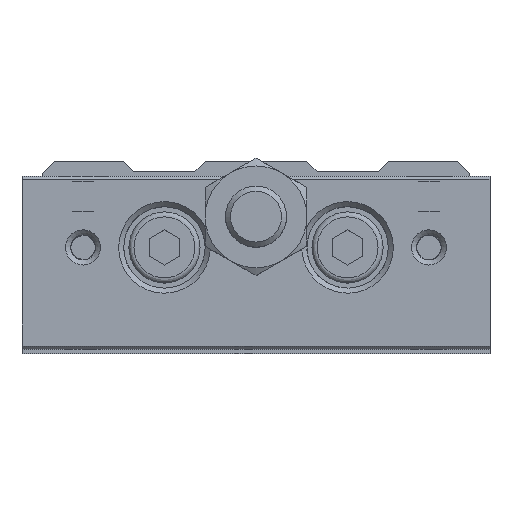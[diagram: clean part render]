
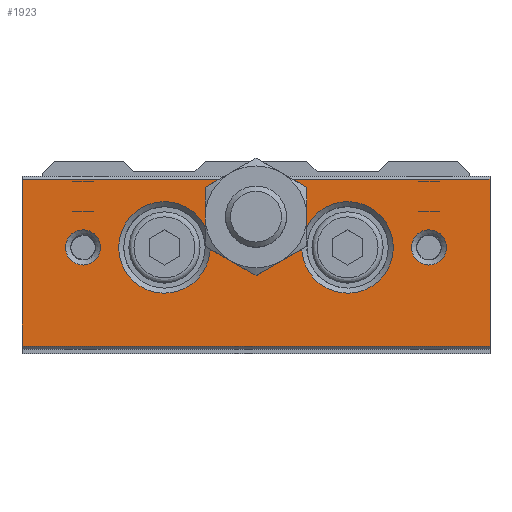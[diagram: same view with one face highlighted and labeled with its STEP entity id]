
A CAD part, top view. The second image highlights one B-rep face of the part: STEP entity #1923.
In plain terms, the highlighted planar face has unit normal (0, 0, 1).
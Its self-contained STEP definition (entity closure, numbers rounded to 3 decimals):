
#1769=CARTESIAN_POINT('',(-15.271,0.,157.0));
#1770=VERTEX_POINT('',#1769);
#1771=CARTESIAN_POINT('',(-17.0,0.,157.0));
#1772=DIRECTION('',(0.0,0.0,1.0));
#1773=DIRECTION('',(-1.0,0.0,0.0));
#1774=AXIS2_PLACEMENT_3D('',#1771,#1772,#1773);
#1775=CIRCLE('',#1774,1.73);
#1776=EDGE_CURVE('',#1770,#1770,#1775,.T.);
#1781=CARTESIAN_POINT('',(0.0,-10.,157.0));
#1782=DIRECTION('',(0.0,0.0,1.0));
#1783=DIRECTION('',(1.0,0.0,0.0));
#1784=AXIS2_PLACEMENT_3D('',#1781,#1782,#1783);
#1785=PLANE('',#1784);
#1786=CARTESIAN_POINT('',(-4.816,1.658,157.0));
#1787=VERTEX_POINT('',#1786);
#1788=CARTESIAN_POINT('',(-4.659,1.184,157.0));
#1789=VERTEX_POINT('',#1788);
#1790=CARTESIAN_POINT('',(-9.,0.,157.0));
#1791=DIRECTION('',(0.0,0.0,1.0));
#1792=DIRECTION('',(-1.0,0.0,0.0));
#1793=AXIS2_PLACEMENT_3D('',#1790,#1791,#1792);
#1794=CIRCLE('',#1793,4.5);
#1795=EDGE_CURVE('',#1787,#1789,#1794,.T.);
#1796=ORIENTED_EDGE('',*,*,#1795,.F.);
#1797=CARTESIAN_POINT('',(-5.0,3.,157.0));
#1798=VERTEX_POINT('',#1797);
#1799=CARTESIAN_POINT('',(0.0,3.,157.0));
#1800=DIRECTION('',(0.0,0.0,1.0));
#1801=DIRECTION('',(0.0,1.0,0.0));
#1802=AXIS2_PLACEMENT_3D('',#1799,#1800,#1801);
#1803=CIRCLE('',#1802,5.0);
#1804=EDGE_CURVE('',#1798,#1787,#1803,.T.);
#1805=ORIENTED_EDGE('',*,*,#1804,.F.);
#1806=CARTESIAN_POINT('',(-3.363,6.7,157.0));
#1807=VERTEX_POINT('',#1806);
#1808=CARTESIAN_POINT('',(0.0,3.,157.0));
#1809=DIRECTION('',(0.0,0.0,1.0));
#1810=DIRECTION('',(0.0,1.0,0.0));
#1811=AXIS2_PLACEMENT_3D('',#1808,#1809,#1810);
#1812=CIRCLE('',#1811,5.0);
#1813=EDGE_CURVE('',#1807,#1798,#1812,.T.);
#1814=ORIENTED_EDGE('',*,*,#1813,.F.);
#1815=CARTESIAN_POINT('',(-23.,6.7,157.0));
#1816=VERTEX_POINT('',#1815);
#1817=CARTESIAN_POINT('',(-23.,6.7,157.0));
#1818=DIRECTION('',(1.0,0.0,0.0));
#1819=VECTOR('',#1818,19.637);
#1820=LINE('',#1817,#1819);
#1821=EDGE_CURVE('',#1816,#1807,#1820,.T.);
#1822=ORIENTED_EDGE('',*,*,#1821,.F.);
#1823=CARTESIAN_POINT('',(-23.,-9.7,157.0));
#1824=VERTEX_POINT('',#1823);
#1825=CARTESIAN_POINT('',(-23.,6.7,157.0));
#1826=DIRECTION('',(0.0,-1.0,0.0));
#1827=VECTOR('',#1826,16.4);
#1828=LINE('',#1825,#1827);
#1829=EDGE_CURVE('',#1816,#1824,#1828,.T.);
#1830=ORIENTED_EDGE('',*,*,#1829,.T.);
#1831=CARTESIAN_POINT('',(23.,-9.7,157.0));
#1832=VERTEX_POINT('',#1831);
#1833=CARTESIAN_POINT('',(23.,-9.7,157.0));
#1834=DIRECTION('',(-1.0,0.0,0.0));
#1835=VECTOR('',#1834,46.);
#1836=LINE('',#1833,#1835);
#1837=EDGE_CURVE('',#1832,#1824,#1836,.T.);
#1838=ORIENTED_EDGE('',*,*,#1837,.F.);
#1839=CARTESIAN_POINT('',(23.,6.7,157.0));
#1840=VERTEX_POINT('',#1839);
#1841=CARTESIAN_POINT('',(23.,-9.7,157.0));
#1842=DIRECTION('',(0.0,1.0,0.0));
#1843=VECTOR('',#1842,16.4);
#1844=LINE('',#1841,#1843);
#1845=EDGE_CURVE('',#1832,#1840,#1844,.T.);
#1846=ORIENTED_EDGE('',*,*,#1845,.T.);
#1847=CARTESIAN_POINT('',(3.363,6.7,157.0));
#1848=VERTEX_POINT('',#1847);
#1849=CARTESIAN_POINT('',(3.363,6.7,157.0));
#1850=DIRECTION('',(1.0,0.0,0.0));
#1851=VECTOR('',#1850,19.637);
#1852=LINE('',#1849,#1851);
#1853=EDGE_CURVE('',#1848,#1840,#1852,.T.);
#1854=ORIENTED_EDGE('',*,*,#1853,.F.);
#1855=CARTESIAN_POINT('',(5.,3.,157.0));
#1856=VERTEX_POINT('',#1855);
#1857=CARTESIAN_POINT('',(0.0,3.,157.0));
#1858=DIRECTION('',(0.0,0.0,1.0));
#1859=DIRECTION('',(0.0,1.0,0.0));
#1860=AXIS2_PLACEMENT_3D('',#1857,#1858,#1859);
#1861=CIRCLE('',#1860,5.0);
#1862=EDGE_CURVE('',#1856,#1848,#1861,.T.);
#1863=ORIENTED_EDGE('',*,*,#1862,.F.);
#1864=CARTESIAN_POINT('',(4.816,1.658,157.0));
#1865=VERTEX_POINT('',#1864);
#1866=CARTESIAN_POINT('',(0.0,3.,157.0));
#1867=DIRECTION('',(0.0,0.0,1.0));
#1868=DIRECTION('',(0.0,1.0,0.0));
#1869=AXIS2_PLACEMENT_3D('',#1866,#1867,#1868);
#1870=CIRCLE('',#1869,5.0);
#1871=EDGE_CURVE('',#1865,#1856,#1870,.T.);
#1872=ORIENTED_EDGE('',*,*,#1871,.F.);
#1873=CARTESIAN_POINT('',(4.659,1.184,157.0));
#1874=VERTEX_POINT('',#1873);
#1875=CARTESIAN_POINT('',(9.0,0.,157.0));
#1876=DIRECTION('',(0.0,0.0,1.0));
#1877=DIRECTION('',(-1.0,0.0,0.0));
#1878=AXIS2_PLACEMENT_3D('',#1875,#1876,#1877);
#1879=CIRCLE('',#1878,4.5);
#1880=EDGE_CURVE('',#1874,#1865,#1879,.T.);
#1881=ORIENTED_EDGE('',*,*,#1880,.F.);
#1882=CARTESIAN_POINT('',(2.5,-1.33,157.0));
#1883=VERTEX_POINT('',#1882);
#1884=CARTESIAN_POINT('',(0.0,3.,157.0));
#1885=DIRECTION('',(0.0,0.0,1.0));
#1886=DIRECTION('',(0.0,1.0,0.0));
#1887=AXIS2_PLACEMENT_3D('',#1884,#1885,#1886);
#1888=CIRCLE('',#1887,5.0);
#1889=EDGE_CURVE('',#1883,#1874,#1888,.T.);
#1890=ORIENTED_EDGE('',*,*,#1889,.F.);
#1891=CARTESIAN_POINT('',(-2.5,-1.33,157.0));
#1892=VERTEX_POINT('',#1891);
#1893=CARTESIAN_POINT('',(0.0,3.,157.0));
#1894=DIRECTION('',(0.0,0.0,1.0));
#1895=DIRECTION('',(0.0,1.0,0.0));
#1896=AXIS2_PLACEMENT_3D('',#1893,#1894,#1895);
#1897=CIRCLE('',#1896,5.0);
#1898=EDGE_CURVE('',#1892,#1883,#1897,.T.);
#1899=ORIENTED_EDGE('',*,*,#1898,.F.);
#1900=CARTESIAN_POINT('',(0.0,3.,157.0));
#1901=DIRECTION('',(0.0,0.0,1.0));
#1902=DIRECTION('',(0.0,1.0,0.0));
#1903=AXIS2_PLACEMENT_3D('',#1900,#1901,#1902);
#1904=CIRCLE('',#1903,5.0);
#1905=EDGE_CURVE('',#1789,#1892,#1904,.T.);
#1906=ORIENTED_EDGE('',*,*,#1905,.F.);
#1907=EDGE_LOOP('',(#1796,#1805,#1814,#1822,#1830,#1838,#1846,#1854,#1863,#1872,#1881,#1890,#1899,#1906));
#1908=FACE_OUTER_BOUND('',#1907,.T.);
#1909=CARTESIAN_POINT('',(18.729,0.,157.0));
#1910=VERTEX_POINT('',#1909);
#1911=CARTESIAN_POINT('',(17.,0.,157.0));
#1912=DIRECTION('',(0.0,0.0,1.0));
#1913=DIRECTION('',(-1.0,0.0,0.0));
#1914=AXIS2_PLACEMENT_3D('',#1911,#1912,#1913);
#1915=CIRCLE('',#1914,1.73);
#1916=EDGE_CURVE('',#1910,#1910,#1915,.T.);
#1917=ORIENTED_EDGE('',*,*,#1916,.F.);
#1918=EDGE_LOOP('',(#1917));
#1919=FACE_BOUND('',#1918,.T.);
#1920=ORIENTED_EDGE('',*,*,#1776,.F.);
#1921=EDGE_LOOP('',(#1920));
#1922=FACE_BOUND('',#1921,.T.);
#1923=ADVANCED_FACE('',(#1908,#1919,#1922),#1785,.T.);
